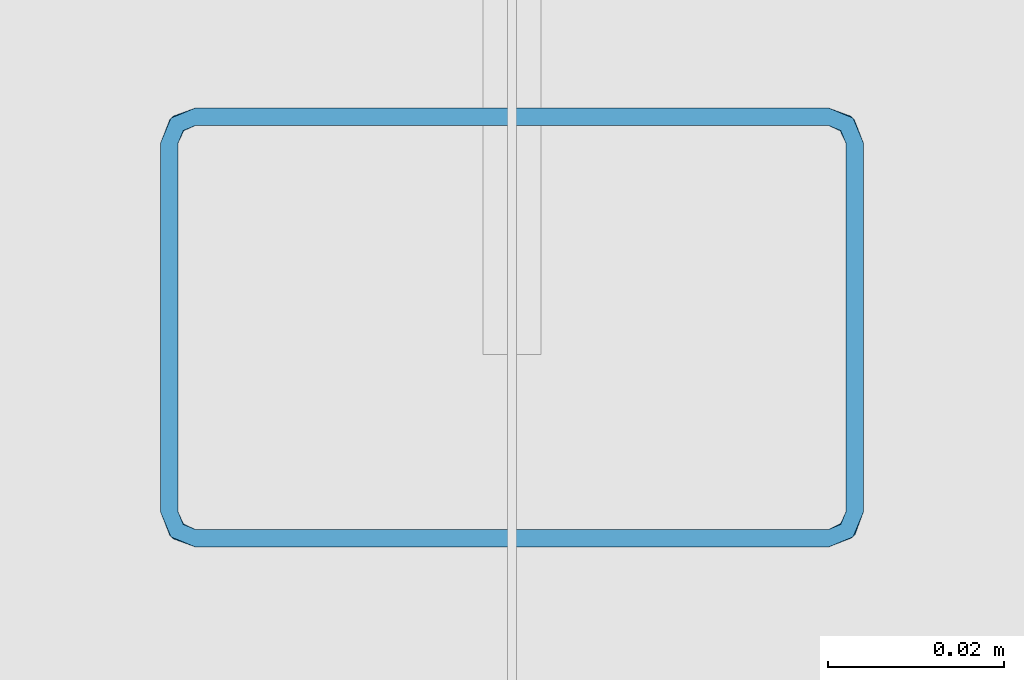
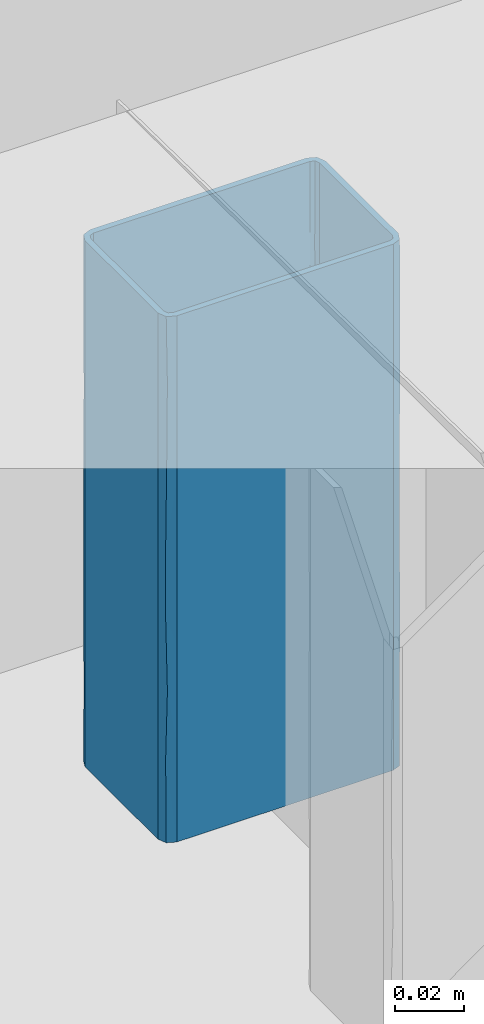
# One storey, part 151 of 186: 1 beam.
"""IFC4X3_ADD2 building model written with IfcOpenShell, lengths in millimetres."""

from ifc_helpers import new_model, si_unit, direction, frame, origin_with_axes, place, context, subcontext, project, spatial, polygons, element, save


model = new_model("IFC4X3_ADD2")

# Units and contexts
model_context = context("Model", 3, precision=1e-05, world=origin_with_axes(), true_north=direction((0.0, 1.0)))
body_context = subcontext(model_context, "Body", "Model", "MODEL_VIEW")
ifc_project = project(units=[si_unit("LENGTHUNIT", "METRE", prefix="MILLI"), si_unit("AREAUNIT", "SQUARE_METRE"), si_unit("VOLUMEUNIT", "CUBIC_METRE"), si_unit("PLANEANGLEUNIT", "RADIAN"), si_unit("TIMEUNIT", "SECOND"), si_unit("MASSUNIT", "GRAM")], contexts=[model_context])

# Site, building, storey
site_placement = place(None, origin_with_axes())
site = spatial("IfcSite", under=ifc_project, at=site_placement, Name="Site", CompositionType="ELEMENT")
building_placement = place(site_placement, origin_with_axes())
building = spatial("IfcBuilding", under=site, at=building_placement, Name="IFC Building Story")
storey_placement = place(building_placement, frame((0.0, 0.0, 4370.0), z_axis=(0.0, 0.0, 1.0), x_axis=(1.0, 0.0, 0.0)))
storey = spatial("IfcBuildingStorey", under=building, at=storey_placement, Name="ETAGE 10 (1)", Elevation=4370.0)

# Beam
beam_placement = place(storey_placement, frame((0.0, 0.0, -4370.0), z_axis=(0.0, 0.0, 1.0), x_axis=(1.0, 0.0, 0.0)))
element("IfcBeam", 1, at=beam_placement, inside=storey, Name="PS9", ObjectType="K50*80*2", context=body_context, shape_type="Tessellation", body=[
    polygons([(40004.18878334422, -106.027340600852, 7329.99958190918), (40006.18878334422, -106.027340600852, 7329.99958190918), (40003.60299690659, -107.4415541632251, 7329.99958190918), (40004.18878334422, -64.027340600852, 7329.99958190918), (40006.18878334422, -64.027340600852, 7329.99958190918), (40003.60299690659, -62.61312703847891, 7329.99958190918), (40005.01721046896, -61.1989134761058, 7329.99958190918), (40002.18878334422, -60.027340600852, 7329.99958190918), (40002.18878334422, -62.027340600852, 7329.99958190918), (39930.18878334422, -60.027340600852, 7329.99958190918), (39930.18878334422, -62.027340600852, 7329.99958190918), (39928.77456978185, -62.61312703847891, 7329.99958190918), (39927.36035621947, -61.1989134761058, 7329.99958190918), (39926.18878334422, -64.027340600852, 7329.99958190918), (39928.18878334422, -64.027340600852, 7329.99958190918), (39926.18878334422, -106.027340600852, 7329.99958190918), (39928.18878334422, -106.027340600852, 7329.99958190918), (39928.77456978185, -107.4415541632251, 7329.99958190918), (39927.36035621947, -108.8557677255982, 7329.99958190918), (39930.18878334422, -110.027340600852, 7329.99958190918), (39930.18878334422, -108.027340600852, 7329.99958190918), (40002.18878334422, -108.027340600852, 7329.99958190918), (40002.18878334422, -110.027340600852, 7329.99958190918), (40005.01721046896, -108.8557677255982, 7329.99958190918), (39928.18878334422, -106.027340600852, 7514.999581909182), (39926.18878334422, -106.027340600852, 7514.999581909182), (39928.77456978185, -107.4415541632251, 7514.999581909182), (39928.18878334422, -64.027340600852, 7514.999581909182), (39926.18878334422, -64.027340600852, 7514.999581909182), (39928.77456978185, -62.61312703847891, 7514.999581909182), (39927.36035621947, -61.1989134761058, 7514.999581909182), (39930.18878334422, -60.027340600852, 7514.999581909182), (39930.18878334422, -62.027340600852, 7514.999581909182), (40002.18878334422, -60.027340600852, 7514.999581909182), (40002.18878334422, -62.027340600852, 7514.999581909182), (40003.60299690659, -62.61312703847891, 7514.999581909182), (40005.01721046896, -61.1989134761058, 7514.999581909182), (40006.18878334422, -64.027340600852, 7514.999581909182), (40004.18878334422, -64.027340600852, 7514.999581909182), (40006.18878334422, -106.027340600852, 7514.999581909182), (40004.18878334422, -106.027340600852, 7514.999581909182), (40003.60299690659, -107.4415541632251, 7514.999581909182), (40005.01721046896, -108.8557677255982, 7514.999581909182), (40002.18878334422, -110.027340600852, 7514.999581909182), (40002.18878334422, -108.027340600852, 7514.999581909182), (39930.18878334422, -108.027340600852, 7514.999581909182), (39930.18878334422, -110.027340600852, 7514.999581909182), (39927.36035621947, -108.8557677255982, 7514.999581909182), (40002.18878334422, -110.027340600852, 7347.458104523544), (40002.18878334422, -110.027340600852, 7376.249581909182), (40002.18878334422, -110.027340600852, 7399.374583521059), (40002.18878334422, -110.027340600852, 7422.499581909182), (40002.18878334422, -110.027340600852, 7445.624580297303), (40002.18878334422, -110.027340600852, 7468.749581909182), (40002.18878334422, -110.027340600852, 7497.541059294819), (39930.18878334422, -110.027340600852, 7480.082535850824), (39930.18878334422, -110.027340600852, 7457.416627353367), (39930.18878334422, -110.027340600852, 7428.625150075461), (39930.18878334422, -110.027340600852, 7399.833672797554), (39930.18878334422, -110.027340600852, 7364.91662796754), (39927.50664382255, -108.9948526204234, 7468.749579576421), (39926.18878334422, -106.027340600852, 7497.54105965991), (39926.18878334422, -106.027340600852, 7347.458104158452), (39927.24045339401, -108.730551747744, 7359.346476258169), (39927.24702194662, -108.7376984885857, 7434.06207934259), (39926.18878334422, -106.027340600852, 7445.624580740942), (39927.24692705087, -108.7375954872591, 7408.867571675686), (39927.60943788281, -109.0846232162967, 7491.927046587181), (39926.18878334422, -106.027340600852, 7468.749581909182), (39927.619961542, -109.0934708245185, 7383.292348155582), (39926.18878334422, -106.027340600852, 7422.499581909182), (39926.18878334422, -106.027340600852, 7399.374583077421), (39926.18878334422, -106.027340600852, 7376.249581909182), (39926.18878334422, -64.027340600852, 7497.54105919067), (39926.18878334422, -64.027340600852, 7468.749581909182), (39926.18878334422, -64.027340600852, 7445.624581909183), (39926.18878334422, -64.027340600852, 7422.499581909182), (39926.18878334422, -64.027340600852, 7399.374581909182), (39926.18878334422, -64.027340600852, 7376.24958190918), (39926.18878334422, -64.027340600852, 7347.458104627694), (39927.24045312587, -61.3241297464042, 7485.652677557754), (39927.60943782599, -60.9700580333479, 7353.072114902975), (39927.50664381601, -61.059828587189, 7376.249580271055), (39930.18878334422, -60.027340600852, 7364.916627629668), (39930.18878334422, -60.027340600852, 7387.582536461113), (39927.24702197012, -61.3169826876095, 7410.937079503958), (39930.18878334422, -60.027340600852, 7480.082536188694), (39927.61996140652, -60.961210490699, 7461.706806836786), (39927.24692714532, -61.3170856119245, 7436.131585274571), (39930.18878334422, -60.027340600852, 7445.165491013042), (39930.18878334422, -60.027340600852, 7416.374013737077), (40002.18878334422, -60.027340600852, 7480.082536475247), (40002.18878334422, -60.027340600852, 7451.291059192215), (40002.18878334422, -60.027340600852, 7422.499581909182), (40002.18878334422, -60.027340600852, 7399.374582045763), (40002.18878334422, -60.027340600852, 7376.249582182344), (40002.18878334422, -60.027340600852, 7347.458104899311), (40006.18878334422, -64.027340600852, 7364.916627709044), (40006.18878334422, -64.027340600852, 7399.833673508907), (40005.02921849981, -61.2109727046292, 7387.812080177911), (40006.18878334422, -64.027340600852, 7480.082536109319), (40005.01721034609, -61.19891335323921, 7468.749577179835), (40004.77692155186, -60.9774978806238, 7491.874578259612), (40004.84066656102, -61.03275959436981, 7363.777071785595), (40005.15629016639, -61.3451953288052, 7443.870651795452), (40005.08104989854, -61.2642274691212, 7420.819318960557), (40006.18878334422, -64.027340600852, 7457.41662691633), (40006.18878334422, -64.027340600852, 7428.62515021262), (40006.18878334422, -106.027340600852, 7480.082535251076), (40006.18878334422, -106.027340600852, 7457.416626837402), (40006.18878334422, -106.027340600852, 7428.625149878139), (40006.18878334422, -106.027340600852, 7399.833672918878), (40006.18878334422, -106.027340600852, 7364.916627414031), (40005.15629539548, -108.7094800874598, 7468.749579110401), (40004.89199449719, -108.9756705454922, 7359.346476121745), (40004.89914124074, -108.9691019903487, 7434.062078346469), (40004.89903825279, -108.9691968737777, 7408.867571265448), (40005.24606596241, -108.6066860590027, 7491.927046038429), (40005.25491358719, -108.5961623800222, 7383.292347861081), (40003.54878165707, -107.4937663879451, 7406.329640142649), (40004.18878334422, -106.027340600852, 7404.069820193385), (40003.50360496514, -107.5344053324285, 7393.984068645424), (40003.76749020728, -107.2552187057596, 7444.932419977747), (40003.66606200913, -107.3755422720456, 7434.149878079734), (40002.18878334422, -108.027340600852, 7445.624581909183), (40003.54878164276, -107.4937664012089, 7474.139560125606), (40004.18878334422, -106.027340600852, 7482.65970072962), (40004.18878334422, -106.027340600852, 7471.879740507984), (40004.18878334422, -106.027340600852, 7461.099780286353), (40003.67568666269, -107.3649199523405, 7422.218561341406), (40002.18878334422, -108.027340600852, 7422.499581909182), (40002.18878334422, -108.027340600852, 7502.654542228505), (40003.60299687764, -107.4415541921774, 7498.047100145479), (40002.18878334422, -108.027340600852, 7490.309502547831), (40003.59435382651, -107.4501447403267, 7486.231226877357), (40004.18878334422, -106.027340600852, 7502.654542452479), (40004.18878334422, -106.027340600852, 7342.344621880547), (40003.60299692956, -107.4415541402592, 7348.517141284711), (40002.18878334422, -108.027340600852, 7342.344621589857), (40004.18878334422, -106.027340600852, 7416.414859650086), (40004.18878334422, -106.027340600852, 7367.034700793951), (40003.6494168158, -107.3935579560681, 7360.862180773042), (40003.60299694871, -107.4415541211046, 7373.20722027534), (40003.66144509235, -107.3805838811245, 7455.709798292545), (40002.18878334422, -108.027340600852, 7468.749581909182), (40004.18878334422, -106.027340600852, 7379.379740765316), (40004.18878334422, -106.027340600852, 7354.689661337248), (40002.18878334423, -108.027340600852, 7367.034700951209), (40002.18878334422, -108.027340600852, 7354.689661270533), (40004.18878334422, -106.027340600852, 7493.439660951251), (40002.18878334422, -108.027340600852, 7479.529542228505), (40004.18878334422, -106.027340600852, 7439.539859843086), (40004.18878334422, -106.027340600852, 7428.759899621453), (40004.18878334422, -106.027340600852, 7450.319820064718), (40002.18878334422, -108.027340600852, 7434.062081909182), (40002.18878334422, -108.027340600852, 7411.719621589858), (40002.18878334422, -108.027340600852, 7457.18708190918), (40002.18878334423, -108.027340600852, 7400.939661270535), (40004.18878334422, -106.027340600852, 7391.724780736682), (40003.74433814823, -107.2844202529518, 7383.68828868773), (40002.18878334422, -108.027340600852, 7390.15970095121), (40002.18878334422, -108.027340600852, 7379.379740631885), (40004.18878334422, -64.027340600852, 7502.654542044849), (40004.18878334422, -64.027340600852, 7490.30950276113), (40004.18878334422, -64.027340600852, 7479.529542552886), (40004.18878334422, -64.027340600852, 7468.749582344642), (40004.18878334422, -64.027340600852, 7457.187082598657), (40004.18878334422, -64.027340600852, 7445.624582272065), (40004.18878334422, -64.027340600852, 7434.062081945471), (40004.18878334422, -64.027340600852, 7422.499582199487), (40004.18878334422, -64.027340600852, 7410.937082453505), (40004.18878334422, -64.027340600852, 7399.374582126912), (40004.18878334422, -64.027340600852, 7387.812081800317), (40004.18878334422, -64.027340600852, 7376.249582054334), (40004.18878334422, -64.027340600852, 7365.46962184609), (40004.18878334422, -64.027340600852, 7354.689661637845), (40004.18878334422, -64.027340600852, 7342.344621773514), (40003.67282271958, -62.686584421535, 7439.843330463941), (40003.71292750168, -62.73235620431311, 7428.281218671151), (40003.50353653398, -62.520216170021, 7401.638518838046), (40003.67482290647, -62.68880168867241, 7416.718330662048), (40002.18878334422, -62.027340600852, 7405.45930305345), (40002.18878334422, -62.027340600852, 7342.344621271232), (40003.60299690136, -62.6131270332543, 7346.952061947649), (40002.18878334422, -62.027340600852, 7351.559502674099), (40003.65520916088, -62.6673423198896, 7360.079640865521), (40003.67736363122, -62.6916277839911, 7475.223688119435), (40003.66043435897, -62.6729982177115, 7462.968330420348), (40002.18878334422, -62.027340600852, 7428.584304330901), (40003.64326618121, -62.6545770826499, 7371.747873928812), (40002.18878334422, -62.027340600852, 7362.339462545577), (40002.18878334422, -62.027340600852, 7502.65454254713), (40002.18878334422, -62.027340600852, 7465.619423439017), (40003.60299692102, -62.61312705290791, 7496.482021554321), (40002.18878334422, -62.027340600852, 7490.309502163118), (40002.18878334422, -62.027340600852, 7453.274383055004), (40003.71248637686, -62.73183719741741, 7451.408622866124), (40002.18878334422, -62.027340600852, 7440.929343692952), (40003.54202665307, -62.55467887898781, 7389.289362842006), (40002.18878334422, -62.027340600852, 7394.679343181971), (40002.18878334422, -62.027340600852, 7383.899383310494), (40002.18878334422, -62.027340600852, 7373.119422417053), (40002.18878334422, -62.027340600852, 7477.964462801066), (40003.45863278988, -62.482192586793, 7485.788710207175), (40002.18878334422, -62.027340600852, 7416.239263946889), (39930.18878334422, -62.027340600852, 7502.654541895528), (39930.18878334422, -62.027340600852, 7491.874581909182), (39930.18878334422, -62.027340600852, 7480.312081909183), (39930.18878334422, -62.027340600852, 7468.749581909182), (39930.18878334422, -62.027340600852, 7457.18708190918), (39930.18878334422, -62.027340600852, 7445.624581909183), (39930.18878334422, -62.027340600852, 7434.062081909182), (39930.18878334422, -62.027340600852, 7422.499581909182), (39930.18878334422, -62.027340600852, 7410.937081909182), (39930.18878334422, -62.027340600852, 7399.374581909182), (39930.18878334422, -62.027340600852, 7387.812081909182), (39930.18878334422, -62.027340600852, 7376.249581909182), (39930.18878334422, -62.027340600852, 7365.469621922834), (39930.18878334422, -62.027340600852, 7354.689660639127), (39930.18878334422, -62.027340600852, 7342.344621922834), (39928.84802718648, -62.5433012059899, 7439.843330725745), (39928.89379896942, -62.5031964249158, 7428.281218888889), (39928.68165892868, -62.7125873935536, 7401.63851911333), (39928.85024445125, -62.5413010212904, 7416.718330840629), (39928.18878334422, -64.027340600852, 7405.459304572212), (39928.90258956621, -62.49577095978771, 7485.918857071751), (39928.18878334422, -64.027340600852, 7342.344622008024), (39928.7745697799, -62.6131270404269, 7346.952061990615), (39928.18878334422, -64.027340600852, 7351.559502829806), (39928.18878334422, -64.027340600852, 7502.654541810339), (39928.82878506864, -62.56091477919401, 7360.079640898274), (39928.18878334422, -64.027340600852, 7465.619423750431), (39928.82346496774, -62.5658667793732, 7474.530830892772), (39928.18878334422, -64.027340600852, 7477.964463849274), (39928.70316488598, -62.68833432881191, 7459.446902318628), (39928.81601983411, -62.5728577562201, 7371.747873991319), (39928.18878334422, -64.027340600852, 7362.339462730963), (39928.18878334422, -64.027340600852, 7490.309502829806), (39928.77456979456, -62.6131270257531, 7497.264561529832), (39928.18878334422, -64.027340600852, 7428.584303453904), (39928.18878334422, -64.027340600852, 7453.274383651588), (39928.18878334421, -64.027340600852, 7440.929343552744), (39928.71612163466, -62.67409727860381, 7389.2893630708), (39928.18878334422, -64.027340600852, 7394.679343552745), (39928.18878334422, -64.027340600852, 7383.899383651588), (39928.18878334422, -64.027340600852, 7373.119423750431), (39928.18878334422, -64.027340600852, 7416.23926447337), (39928.18878334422, -106.027340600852, 7502.654541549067), (39928.18878334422, -106.027340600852, 7491.874580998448), (39928.18878334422, -106.027340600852, 7480.312080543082), (39928.18878334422, -106.027340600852, 7468.749581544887), (39928.18878334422, -106.027340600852, 7457.187082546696), (39928.18878334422, -106.027340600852, 7445.62458209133), (39928.18878334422, -106.027340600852, 7434.062081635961), (39928.18878334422, -106.027340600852, 7422.499581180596), (39928.18878334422, -106.027340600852, 7410.937080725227), (39928.18878334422, -106.027340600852, 7399.374581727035), (39928.18878334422, -106.027340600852, 7387.812082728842), (39928.18878334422, -106.027340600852, 7376.249582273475), (39928.18878334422, -106.027340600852, 7365.469621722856), (39928.18878334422, -106.027340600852, 7354.689661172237), (39928.18878334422, -106.027340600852, 7342.344620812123), (39928.70474393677, -107.3680967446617, 7439.843330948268), (39928.66463915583, -107.322324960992, 7428.28121908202), (39928.87403012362, -107.5344650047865, 7401.638519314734), (39928.70274375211, -107.3658794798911, 7416.718331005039), (39930.18878334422, -108.027340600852, 7405.459303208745), (39928.65721370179, -107.3135343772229, 7485.918857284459), (39930.18878334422, -108.027340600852, 7342.344620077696), (39928.77456978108, -107.4415541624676, 7346.952062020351), (39930.18878334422, -108.027340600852, 7351.559503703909), (39930.18878334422, -108.027340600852, 7502.654541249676), (39928.72235751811, -107.3873388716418, 7360.079640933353), (39930.18878334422, -108.027340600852, 7465.619421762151), (39928.7273095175, -107.3926589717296, 7474.530831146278), (39930.18878334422, -108.027340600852, 7477.964462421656), (39928.84977705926, -107.5129590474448, 7459.446902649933), (39928.73430049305, -107.4001041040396, 7371.747874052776), (39930.18878334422, -108.027340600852, 7362.339462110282), (39930.18878334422, -108.027340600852, 7490.309503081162), (39928.77456977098, -107.4415541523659, 7497.264561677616), (39930.18878334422, -108.027340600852, 7428.584302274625), (39930.18878334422, -108.027340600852, 7453.274383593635), (39930.18878334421, -108.027340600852, 7440.929342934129), (39928.83554001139, -107.500002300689, 7389.289363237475), (39930.18878334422, -108.027340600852, 7394.679342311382), (39930.18878334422, -108.027340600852, 7383.89938390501), (39930.18878334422, -108.027340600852, 7373.119423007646), (39930.18878334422, -108.027340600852, 7416.239264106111)], [[[1, 2, 3]], [[2, 1, 4]], [[4, 5, 2]], [[6, 5, 4]], [[7, 5, 6]], [[6, 8, 7]], [[6, 9, 8]], [[8, 9, 10]], [[11, 10, 9]], [[11, 12, 10]], [[10, 12, 13]], [[14, 13, 12]], [[14, 12, 15]], [[14, 15, 16]], [[17, 16, 15]], [[18, 16, 17]], [[16, 18, 19]], [[18, 20, 19]], [[21, 20, 18]], [[20, 21, 22]], [[3, 23, 22]], [[22, 23, 20]], [[3, 2, 24]], [[23, 3, 24]], [[25, 26, 27]], [[26, 25, 28]], [[28, 29, 26]], [[30, 29, 28]], [[31, 29, 30]], [[30, 32, 31]], [[30, 33, 32]], [[32, 33, 34]], [[35, 34, 33]], [[35, 36, 34]], [[34, 36, 37]], [[38, 37, 36]], [[38, 36, 39]], [[38, 39, 40]], [[41, 40, 39]], [[42, 40, 41]], [[40, 42, 43]], [[42, 44, 43]], [[45, 44, 42]], [[44, 45, 46]], [[27, 47, 46]], [[46, 47, 44]], [[27, 26, 48]], [[47, 27, 48]], [[55, 44, 47]], [[47, 56, 54]], [[47, 54, 55]], [[56, 57, 53]], [[56, 53, 54]], [[57, 58, 52]], [[57, 52, 53]], [[58, 59, 51]], [[58, 51, 52]], [[59, 60, 50]], [[59, 50, 51]], [[60, 20, 49]], [[60, 49, 50]], [[20, 23, 49]], [[61, 57, 56]], [[48, 26, 62]], [[63, 16, 19]], [[19, 20, 64]], [[61, 65, 57]], [[66, 65, 61]], [[67, 59, 58]], [[61, 68, 69]], [[61, 56, 68]], [[20, 60, 64]], [[67, 70, 59]], [[47, 48, 68]], [[64, 60, 70]], [[68, 62, 69]], [[58, 65, 67]], [[65, 66, 71]], [[61, 69, 66]], [[65, 71, 67]], [[57, 65, 58]], [[70, 72, 73]], [[72, 70, 67]], [[64, 73, 63]], [[60, 59, 70]], [[47, 68, 56]], [[62, 68, 48]], [[67, 71, 72]], [[73, 64, 70]], [[19, 64, 63]], [[62, 26, 29]], [[62, 29, 74]], [[74, 75, 69]], [[74, 69, 62]], [[75, 76, 66]], [[75, 66, 69]], [[76, 77, 71]], [[76, 71, 66]], [[77, 78, 72]], [[77, 72, 71]], [[78, 79, 73]], [[78, 73, 72]], [[79, 80, 63]], [[79, 63, 73]], [[80, 14, 16]], [[80, 16, 63]], [[31, 32, 81]], [[82, 79, 83]], [[84, 83, 85]], [[82, 80, 79]], [[83, 86, 85]], [[13, 14, 80]], [[74, 29, 31]], [[78, 86, 83]], [[81, 32, 87]], [[87, 88, 81]], [[89, 90, 91]], [[89, 88, 90]], [[10, 13, 82]], [[83, 84, 82]], [[91, 86, 89]], [[86, 78, 77]], [[83, 79, 78]], [[86, 77, 89]], [[85, 86, 91]], [[88, 76, 75]], [[76, 88, 89]], [[81, 75, 74]], [[87, 90, 88]], [[10, 82, 84]], [[80, 82, 13]], [[89, 77, 76]], [[75, 81, 88]], [[31, 81, 74]], [[87, 32, 34]], [[87, 34, 92]], [[92, 93, 90]], [[92, 90, 87]], [[93, 94, 91]], [[93, 91, 90]], [[95, 96, 85]], [[85, 91, 94]], [[85, 94, 95]], [[96, 84, 85]], [[97, 8, 10]], [[97, 10, 84]], [[84, 96, 97]], [[98, 5, 7]], [[99, 98, 100]], [[101, 102, 103]], [[7, 97, 104]], [[37, 103, 34]], [[94, 105, 106]], [[93, 102, 105]], [[96, 100, 104]], [[105, 102, 107]], [[38, 101, 103]], [[100, 106, 99]], [[7, 8, 97]], [[101, 107, 102]], [[105, 94, 93]], [[103, 102, 92]], [[93, 92, 102]], [[107, 108, 105]], [[105, 108, 106]], [[34, 103, 92]], [[103, 37, 38]], [[108, 99, 106]], [[96, 95, 100]], [[100, 95, 106]], [[95, 94, 106]], [[104, 100, 98]], [[7, 104, 98]], [[97, 96, 104]], [[101, 38, 40]], [[101, 40, 109]], [[109, 110, 107]], [[109, 107, 101]], [[110, 111, 108]], [[110, 108, 107]], [[111, 112, 99]], [[111, 99, 108]], [[112, 113, 98]], [[112, 98, 99]], [[113, 2, 5]], [[113, 5, 98]], [[114, 110, 109]], [[43, 44, 55]], [[49, 23, 24]], [[24, 2, 115]], [[114, 116, 110]], [[53, 116, 114]], [[117, 112, 111]], [[114, 118, 54]], [[114, 109, 118]], [[2, 113, 115]], [[117, 119, 112]], [[40, 43, 118]], [[115, 113, 119]], [[118, 55, 54]], [[111, 116, 117]], [[116, 53, 52]], [[114, 54, 53]], [[116, 52, 117]], [[110, 116, 111]], [[119, 51, 50]], [[51, 119, 117]], [[115, 50, 49]], [[113, 112, 119]], [[40, 118, 109]], [[55, 118, 43]], [[117, 52, 51]], [[50, 115, 119]], [[24, 115, 49]], [[120, 121, 122]], [[123, 124, 125]], [[126, 127, 128, 129]], [[124, 130, 131]], [[132, 42, 133]], [[134, 133, 135]], [[42, 41, 136]], [[137, 1, 3]], [[138, 3, 139]], [[120, 130, 140]], [[141, 142, 143]], [[144, 145, 126]], [[141, 143, 146]], [[137, 138, 147]], [[148, 142, 149]], [[42, 136, 133]], [[150, 133, 136]], [[3, 22, 139]], [[132, 45, 42]], [[3, 138, 137]], [[133, 134, 132]], [[150, 127, 135]], [[135, 126, 151]], [[150, 135, 133]], [[151, 126, 145]], [[152, 153, 124]], [[129, 154, 144]], [[124, 131, 155, 125]], [[130, 120, 156]], [[144, 154, 123]], [[157, 145, 144, 125]], [[129, 144, 126]], [[152, 123, 154]], [[158, 120, 122]], [[142, 138, 149]], [[142, 141, 147]], [[149, 138, 139]], [[159, 122, 121]], [[153, 130, 124]], [[159, 160, 122]], [[156, 120, 158]], [[121, 120, 140]], [[143, 160, 146]], [[161, 158, 122]], [[143, 162, 160]], [[148, 162, 143]], [[143, 142, 148]], [[138, 142, 147]], [[144, 123, 125]], [[124, 123, 152]], [[134, 135, 151]], [[135, 127, 126]], [[146, 160, 159]], [[162, 161, 160]], [[161, 122, 160]], [[156, 131, 130]], [[140, 130, 153]], [[136, 41, 39]], [[136, 39, 163]], [[163, 164, 150]], [[163, 150, 136]], [[164, 165, 127]], [[164, 127, 150]], [[165, 166, 128]], [[165, 128, 127]], [[166, 167, 129]], [[166, 129, 128]], [[167, 168, 154]], [[167, 154, 129]], [[168, 169, 152]], [[168, 152, 154]], [[169, 153, 152]], [[170, 171, 140]], [[140, 153, 169]], [[140, 169, 170]], [[171, 172, 121]], [[171, 121, 140]], [[172, 173, 159]], [[172, 159, 121]], [[173, 174, 146]], [[173, 146, 159]], [[174, 175, 141]], [[174, 141, 146]], [[175, 176, 147]], [[175, 147, 141]], [[176, 177, 137]], [[176, 137, 147]], [[177, 4, 1]], [[177, 1, 137]], [[178, 179, 169]], [[180, 181, 182]], [[163, 39, 36]], [[6, 4, 177]], [[183, 6, 184, 185]], [[176, 175, 186]], [[187, 188, 166]], [[166, 188, 167]], [[189, 179, 178]], [[190, 186, 175]], [[186, 190, 191]], [[183, 9, 6]], [[35, 192, 36]], [[187, 193, 188]], [[163, 194, 164]], [[195, 194, 192]], [[185, 186, 191]], [[36, 194, 163]], [[196, 197, 188]], [[169, 168, 178]], [[6, 177, 176, 184]], [[198, 189, 178]], [[186, 185, 184]], [[199, 200, 201]], [[176, 186, 184]], [[202, 191, 190, 201]], [[36, 192, 194]], [[190, 199, 201]], [[179, 181, 170]], [[197, 196, 198]], [[178, 168, 197]], [[193, 196, 188]], [[197, 167, 188]], [[187, 203, 193]], [[195, 204, 194]], [[165, 164, 204]], [[180, 199, 172]], [[172, 199, 174, 173]], [[199, 190, 174]], [[180, 200, 199]], [[205, 182, 181, 189]], [[171, 181, 180]], [[204, 195, 203]], [[187, 165, 204]], [[170, 181, 171]], [[180, 172, 171]], [[169, 179, 170]], [[181, 179, 189]], [[167, 197, 168]], [[198, 178, 197]], [[182, 200, 180]], [[187, 166, 165]], [[194, 204, 164]], [[187, 204, 203]], [[174, 190, 175]], [[192, 35, 33]], [[192, 33, 206]], [[206, 207, 195]], [[206, 195, 192]], [[207, 208, 203]], [[207, 203, 195]], [[208, 209, 193]], [[208, 193, 203]], [[209, 210, 196]], [[209, 196, 193]], [[210, 211, 198]], [[210, 198, 196]], [[211, 212, 189]], [[211, 189, 198]], [[213, 214, 205]], [[213, 205, 189]], [[189, 212, 213]], [[214, 182, 205]], [[214, 215, 200]], [[214, 200, 182]], [[215, 216, 201]], [[215, 201, 200]], [[216, 217, 202]], [[216, 202, 201]], [[217, 218, 191]], [[217, 191, 202]], [[218, 219, 185]], [[218, 185, 191]], [[219, 220, 183]], [[219, 183, 185]], [[220, 11, 9]], [[220, 9, 183]], [[221, 222, 212]], [[223, 224, 225]], [[208, 207, 226]], [[227, 15, 12]], [[227, 12, 228]], [[228, 229, 227]], [[30, 28, 230]], [[219, 218, 231]], [[232, 233, 234]], [[233, 235, 209]], [[208, 233, 209]], [[236, 231, 218]], [[231, 236, 237]], [[238, 226, 239]], [[206, 239, 207]], [[208, 226, 233]], [[206, 33, 30]], [[12, 11, 220, 228]], [[229, 231, 237]], [[30, 230, 239]], [[30, 239, 206]], [[239, 230, 238]], [[240, 222, 221]], [[221, 235, 241]], [[212, 211, 221]], [[242, 240, 221, 241]], [[228, 220, 219]], [[231, 229, 228]], [[243, 244, 245]], [[219, 231, 228]], [[246, 237, 236, 245]], [[241, 235, 232]], [[238, 234, 226]], [[222, 224, 213]], [[210, 209, 235, 211]], [[235, 221, 211]], [[236, 243, 245]], [[223, 243, 215]], [[215, 243, 217, 216]], [[243, 236, 217]], [[223, 244, 243]], [[247, 225, 224, 240]], [[214, 224, 223]], [[213, 224, 214]], [[223, 215, 214]], [[232, 235, 233]], [[212, 222, 213]], [[224, 222, 240]], [[234, 233, 226]], [[239, 226, 207]], [[225, 244, 223]], [[217, 236, 218]], [[230, 28, 25]], [[230, 25, 248]], [[248, 249, 238]], [[248, 238, 230]], [[249, 250, 234]], [[249, 234, 238]], [[250, 251, 232]], [[250, 232, 234]], [[251, 252, 241]], [[251, 241, 232]], [[252, 253, 242]], [[252, 242, 241]], [[253, 254, 240]], [[253, 240, 242]], [[255, 256, 247]], [[255, 247, 240]], [[240, 254, 255]], [[256, 225, 247]], [[256, 257, 244]], [[256, 244, 225]], [[257, 258, 245]], [[257, 245, 244]], [[258, 259, 246]], [[258, 246, 245]], [[259, 260, 237]], [[259, 237, 246]], [[260, 261, 229]], [[260, 229, 237]], [[261, 262, 227]], [[261, 227, 229]], [[262, 17, 15]], [[262, 15, 227]], [[263, 264, 254]], [[265, 266, 267]], [[250, 249, 268]], [[269, 21, 18]], [[269, 18, 270]], [[270, 271, 269]], [[27, 46, 272]], [[261, 260, 273]], [[274, 275, 276]], [[275, 277, 251]], [[250, 275, 251]], [[278, 273, 260]], [[273, 278, 279]], [[280, 268, 281]], [[248, 27, 281, 249]], [[250, 268, 275]], [[248, 25, 27]], [[262, 261, 270]], [[270, 18, 17]], [[270, 17, 262]], [[271, 273, 279]], [[27, 272, 281]], [[281, 272, 280]], [[282, 264, 263]], [[263, 277, 283]], [[254, 253, 263]], [[284, 282, 263, 283]], [[273, 271, 270]], [[285, 286, 287]], [[261, 273, 270]], [[288, 279, 278, 287]], [[283, 277, 274]], [[280, 276, 268]], [[264, 266, 255]], [[252, 251, 277, 253]], [[277, 263, 253]], [[278, 285, 287]], [[265, 285, 257]], [[257, 285, 259, 258]], [[285, 278, 259]], [[265, 286, 285]], [[289, 267, 266, 282]], [[256, 266, 265]], [[255, 266, 256]], [[265, 257, 256]], [[274, 277, 275]], [[254, 264, 255]], [[266, 264, 282]], [[276, 275, 268]], [[281, 268, 249]], [[267, 286, 265]], [[259, 278, 260]], [[272, 46, 45]], [[272, 45, 132]], [[132, 134, 280]], [[132, 280, 272]], [[134, 151, 276]], [[134, 276, 280]], [[151, 145, 274]], [[151, 274, 276]], [[145, 157, 283]], [[145, 283, 274]], [[157, 125, 284]], [[157, 284, 283]], [[125, 155, 282]], [[125, 282, 284]], [[131, 156, 289]], [[131, 289, 282]], [[282, 155, 131]], [[156, 158, 267]], [[156, 267, 289]], [[158, 161, 286]], [[158, 286, 267]], [[161, 162, 287]], [[161, 287, 286]], [[162, 148, 288]], [[162, 288, 287]], [[148, 279, 288]], [[148, 149, 271]], [[148, 271, 279]], [[149, 139, 269]], [[149, 269, 271]], [[139, 22, 21]], [[139, 21, 269]]]),
])

save(model, "model.ifc")
